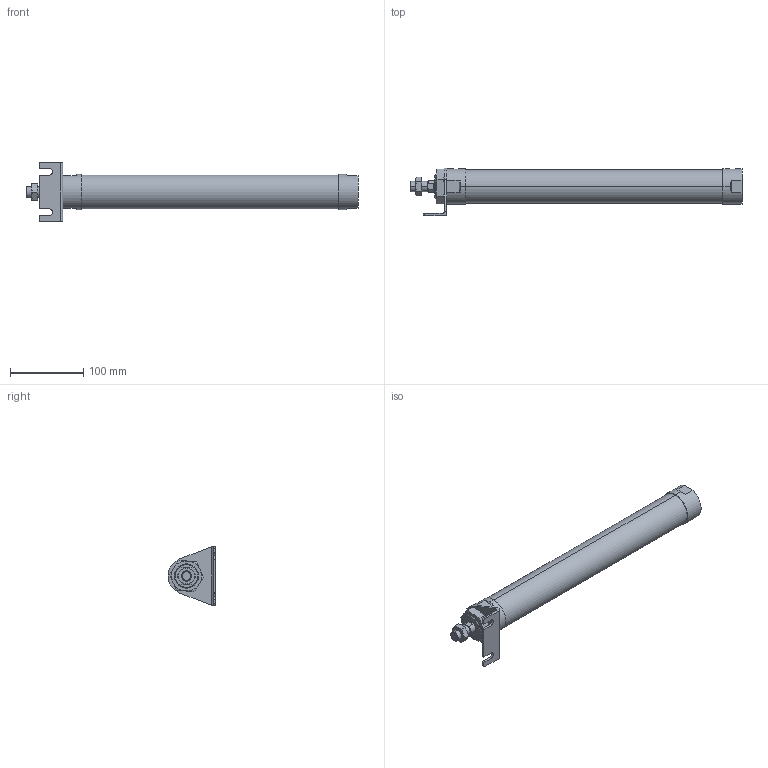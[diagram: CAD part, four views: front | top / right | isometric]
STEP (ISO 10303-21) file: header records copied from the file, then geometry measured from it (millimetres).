
FILE_DESCRIPTION (( 'STEP AP203' ), '1' );
FILE_NAME ('JGND2-40-300-L.STEP', '2016-08-04T03:16:29', ( '' ), ( '' ), 'SwSTEP 2.0', 'SolidWorks 2014', '' );
FILE_SCHEMA (( 'CONFIG_CONTROL_DESIGN' ));
Length unit declared in the file: millimetre
Products named in the file (5): J#2-40-300(P); J#2-40-L; JGND2-40-300-L
Assembly tree (4 placements, depth 2):
  JGND2-40-300-L
    J#2-40-300(P)
    (unnamed)
    (unnamed)
    J#2-40-L
Bounding box: 453 x 65 x 80 mm (x, y, z)
Volume: 718420.9 mm3; surface area: 83284 mm2
Topology: 4 solids, 4 shells, 116 faces, 273 edges, 167 vertices
Faces by surface type: plane 47, cylinder 32, torus 24, cone 13
Entity records: 4269 total; most frequent: CARTESIAN_POINT 1150, DIRECTION 548, ORIENTED_EDGE 538, EDGE_CURVE 269, AXIS2_PLACEMENT_3D 219, VERTEX_POINT 167, EDGE_LOOP 128, FACE_OUTER_BOUND 116
